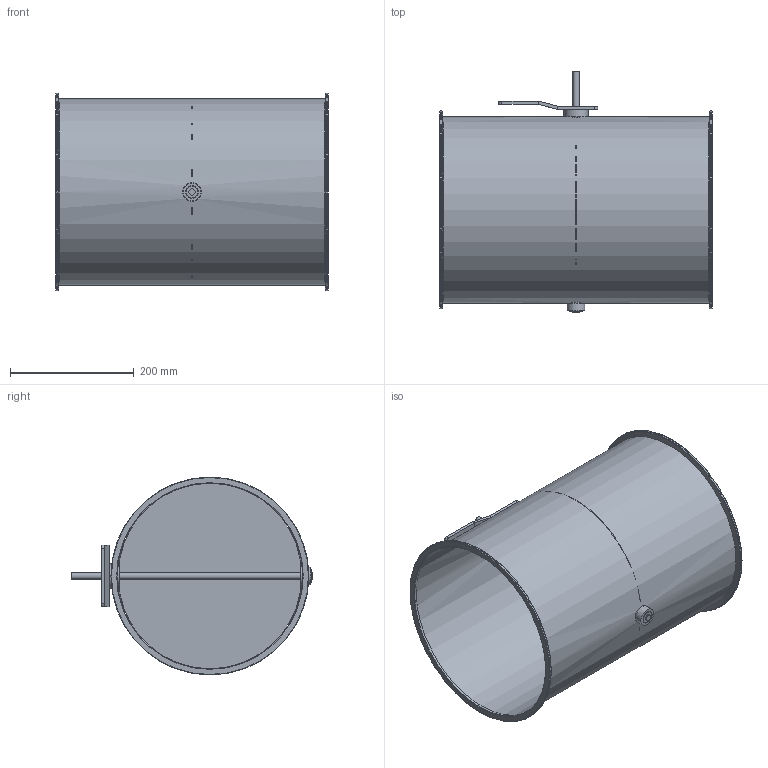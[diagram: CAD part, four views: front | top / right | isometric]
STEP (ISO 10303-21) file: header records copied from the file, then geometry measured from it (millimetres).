
FILE_DESCRIPTION(/* description */ (''),/* implementation_level */ '2;1');
FILE_NAME(/* name */ 'EA105-80B__300_L440_Belimo_Typ_SM.stp',/* time_stamp */ '2017-12-06T15:10:26+01:00',/* author */ (''),/* organization */ (''),/* preprocessor_version */ 'ST-DEVELOPER v11',/* originating_system */ 'SIEMENS UGS NX 6.0',/* authorisation */ '');
FILE_SCHEMA (('CONFIG_CONTROL_DESIGN'));
Length unit declared in the file: millimetre
Products named in the file (1): gars18E2j2c1
Bounding box: 440 x 390 x 320 mm (x, y, z)
Volume: 619779.7 mm3; surface area: 1064619 mm2
Topology: 8 solids, 8 shells, 76 faces, 158 edges, 100 vertices
Faces by surface type: plane 36, cylinder 32, torus 6, cone 2
Full cylindrical faces by diameter (mm): 4.1 x4, 10 x3, 19 x3, 19.85 x2, 20 x2, 29 x1, 30 x2, 39 x1, 300 x1, 301.6 x1, 320 x2
Entity records: 1960 total; most frequent: CARTESIAN_POINT 353, DIRECTION 334, ORIENTED_EDGE 236, AXIS2_PLACEMENT_3D 143, EDGE_LOOP 132, EDGE_CURVE 118, FACE_BOUND 102, VERTEX_POINT 90
